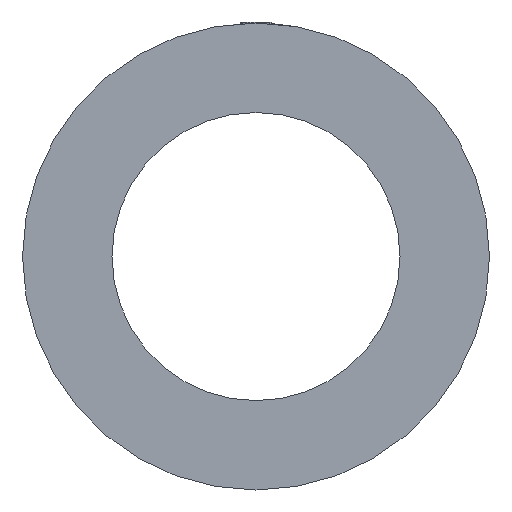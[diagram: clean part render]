
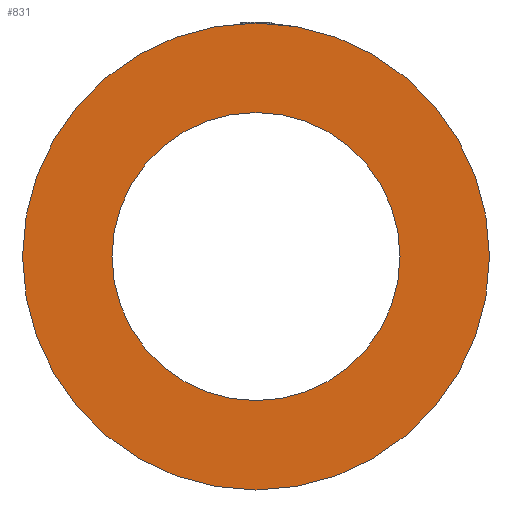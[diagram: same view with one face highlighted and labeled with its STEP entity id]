
A CAD part, left-side view. The second image highlights one B-rep face of the part: STEP entity #831.
In plain terms, the highlighted planar face has unit normal (-1, 0, 0).
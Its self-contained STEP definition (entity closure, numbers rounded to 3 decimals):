
#8 = EDGE_LOOP ( 'NONE', ( #1307, #1334 ) ) ;
#17 = DIRECTION ( 'NONE',  ( 0., 0., 1. ) ) ;
#21 = DIRECTION ( 'NONE',  ( -1., 0., 0. ) ) ;
#24 = CARTESIAN_POINT ( 'NONE',  ( 0., 0., 0. ) ) ;
#161 = EDGE_CURVE ( 'NONE', #1888, #1873, #1782, .T. ) ;
#362 = AXIS2_PLACEMENT_3D ( 'NONE', #2554, #2536, #2524 ) ;
#411 = AXIS2_PLACEMENT_3D ( 'NONE', #24, #21, #17 ) ;
#680 = DIRECTION ( 'NONE',  ( 0., 0., 1. ) ) ;
#728 = VERTEX_POINT ( 'NONE', #2016 ) ;
#831 = ADVANCED_FACE ( 'NONE', ( #2758, #2647 ), #1460, .F. ) ;
#1237 = CIRCLE ( 'NONE', #362, 106. ) ;
#1307 = ORIENTED_EDGE ( 'NONE', *, *, #2861, .F. ) ;
#1334 = ORIENTED_EDGE ( 'NONE', *, *, #1736, .F. ) ;
#1380 = ORIENTED_EDGE ( 'NONE', *, *, #161, .T. ) ;
#1425 = DIRECTION ( 'NONE',  ( 0., 0., -1. ) ) ;
#1429 = DIRECTION ( 'NONE',  ( 1., 0., 0. ) ) ;
#1432 = CARTESIAN_POINT ( 'NONE',  ( 0., 65.4, 0. ) ) ;
#1460 = PLANE ( 'NONE',  #2006 ) ;
#1635 = CARTESIAN_POINT ( 'NONE',  ( 0., 0., -106. ) ) ;
#1715 = CIRCLE ( 'NONE', #411, 65.4 ) ;
#1736 = EDGE_CURVE ( 'NONE', #728, #2254, #1715, .T. ) ;
#1782 = CIRCLE ( 'NONE', #2505, 106. ) ;
#1857 = EDGE_CURVE ( 'NONE', #1873, #1888, #1237, .T. ) ;
#1873 = VERTEX_POINT ( 'NONE', #3025 ) ;
#1888 = VERTEX_POINT ( 'NONE', #1635 ) ;
#1909 = DIRECTION ( 'NONE',  ( -1., 0., 0. ) ) ;
#1923 = CARTESIAN_POINT ( 'NONE',  ( 0., 0., 0. ) ) ;
#2006 = AXIS2_PLACEMENT_3D ( 'NONE', #1432, #1429, #1425 ) ;
#2016 = CARTESIAN_POINT ( 'NONE',  ( 0., 0., -65.4 ) ) ;
#2254 = VERTEX_POINT ( 'NONE', #2814 ) ;
#2432 = ORIENTED_EDGE ( 'NONE', *, *, #1857, .T. ) ;
#2505 = AXIS2_PLACEMENT_3D ( 'NONE', #3115, #3103, #3097 ) ;
#2524 = DIRECTION ( 'NONE',  ( 0., 0., 1. ) ) ;
#2536 = DIRECTION ( 'NONE',  ( -1., 0., 0. ) ) ;
#2554 = CARTESIAN_POINT ( 'NONE',  ( 0., 0., 0. ) ) ;
#2636 = EDGE_LOOP ( 'NONE', ( #2432, #1380 ) ) ;
#2647 = FACE_OUTER_BOUND ( 'NONE', #2636, .T. ) ;
#2674 = CIRCLE ( 'NONE', #3071, 65.4 ) ;
#2758 = FACE_BOUND ( 'NONE', #8, .T. ) ;
#2814 = CARTESIAN_POINT ( 'NONE',  ( 0., 0., 65.4 ) ) ;
#2861 = EDGE_CURVE ( 'NONE', #2254, #728, #2674, .T. ) ;
#3025 = CARTESIAN_POINT ( 'NONE',  ( 0., 0., 106. ) ) ;
#3071 = AXIS2_PLACEMENT_3D ( 'NONE', #1923, #1909, #680 ) ;
#3097 = DIRECTION ( 'NONE',  ( 0., 0., 1. ) ) ;
#3103 = DIRECTION ( 'NONE',  ( -1., 0., 0. ) ) ;
#3115 = CARTESIAN_POINT ( 'NONE',  ( 0., 0., 0. ) ) ;
